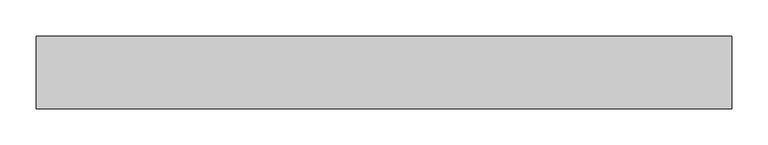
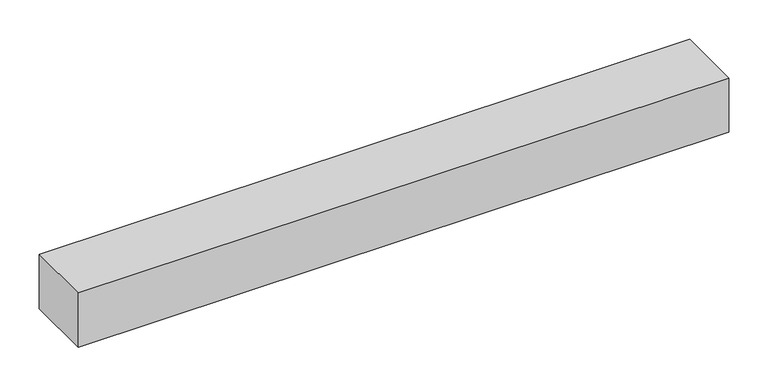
"""IFC4 building model written with IfcOpenShell, lengths in millimetres: plate geometry, Panel del sistema vacío : Vacío."""

from ifc_helpers import new_model, si_unit, origin, origin_with_axes, place, context, project, spatial, polyline, outline, extrude, source, transform, mapped, element, save


def plate_31059733(model_context):
    return source(origin(), model_context, "Body", "SweptSolid", [
        extrude(outline(polyline([(480.0, 50.0), (-480.0, 50.0), (-480.0, 150.0), (480.0, 150.0), (480.0, 50.0)])), origin_with_axes(), (0.0, 0.0, 1.0), 84.9666667),
    ])


if __name__ == "__main__":
    model = new_model("IFC4")
    model_context = context("Model", 3, world=origin())
    ifc_project = project(units=[si_unit("LENGTHUNIT", "METRE", prefix="MILLI")], contexts=[model_context])
    site = spatial("IfcSite", under=ifc_project)
    building = spatial("IfcBuilding", under=site)
    placement = place(None, origin())
    plate_shape = plate_31059733(model_context)
    element("IfcPlate", 1, ObjectType="Panel del sistema vacío : Vacío", at=placement, inside=building, context=model_context, shape_type="MappedRepresentation", body=[
        mapped(plate_shape, transform((0.0, 0.0, 0.0), x_axis=(1.0, 0.0, 0.0), y_axis=(0.0, 1.0, 0.0), z_axis=(0.0, 0.0, 1.0))),
    ])
    save(model, "model.ifc")
